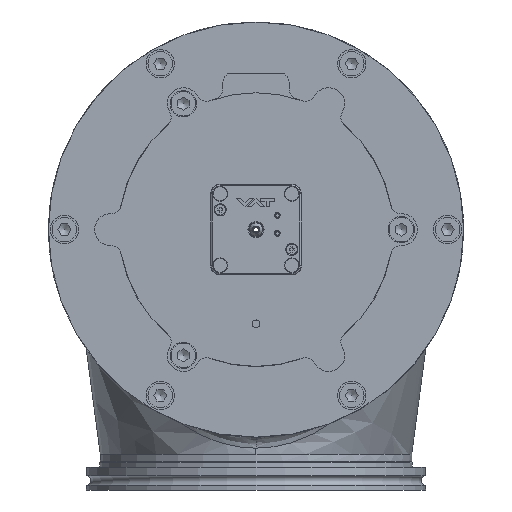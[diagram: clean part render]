
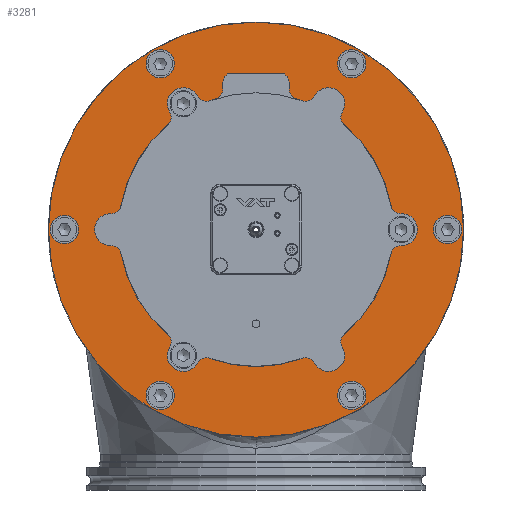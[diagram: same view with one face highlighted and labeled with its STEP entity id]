
A CAD part, left-side view. The second image highlights one B-rep face of the part: STEP entity #3281.
In plain terms, the highlighted planar face has unit normal (-1, 0, 0).
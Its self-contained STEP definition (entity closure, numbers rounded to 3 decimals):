
#3281=ADVANCED_FACE('BCT_REF_36137',(#4828,#4829,#4830,#4831,#4832,#4833,
#4834,#4835,#4836,#4837,#4838),#3699,.T.);
#3699=PLANE('',#13419);
#4253=CIRCLE('',#13408,3.4);
#4254=CIRCLE('',#13409,3.4);
#4255=CIRCLE('',#13410,3.4);
#4256=CIRCLE('',#13411,7.5);
#4257=CIRCLE('',#13412,7.5);
#4258=CIRCLE('',#13413,7.5);
#4259=CIRCLE('',#13414,7.5);
#4260=CIRCLE('',#13415,7.5);
#4261=CIRCLE('',#13416,7.5);
#4262=CIRCLE('',#13417,72.645);
#4263=CIRCLE('',#13418,110.);
#4828=FACE_BOUND('',#5557,.T.);
#4829=FACE_BOUND('',#5558,.T.);
#4830=FACE_BOUND('',#5559,.T.);
#4831=FACE_BOUND('',#5560,.T.);
#4832=FACE_BOUND('',#5561,.T.);
#4833=FACE_BOUND('',#5562,.T.);
#4834=FACE_BOUND('',#5563,.T.);
#4835=FACE_BOUND('',#5564,.T.);
#4836=FACE_BOUND('',#5565,.T.);
#4837=FACE_BOUND('',#5566,.T.);
#4838=FACE_BOUND('',#5567,.T.);
#5557=EDGE_LOOP('',(#7442));
#5558=EDGE_LOOP('',(#7443));
#5559=EDGE_LOOP('',(#7444));
#5560=EDGE_LOOP('',(#7445));
#5561=EDGE_LOOP('',(#7446));
#5562=EDGE_LOOP('',(#7447));
#5563=EDGE_LOOP('',(#7448));
#5564=EDGE_LOOP('',(#7449));
#5565=EDGE_LOOP('',(#7450));
#5566=EDGE_LOOP('',(#7451));
#5567=EDGE_LOOP('',(#7452));
#7442=ORIENTED_EDGE('',*,*,#10671,.T.);
#7443=ORIENTED_EDGE('',*,*,#10672,.T.);
#7444=ORIENTED_EDGE('',*,*,#10673,.T.);
#7445=ORIENTED_EDGE('',*,*,#10674,.T.);
#7446=ORIENTED_EDGE('',*,*,#10675,.T.);
#7447=ORIENTED_EDGE('',*,*,#10676,.T.);
#7448=ORIENTED_EDGE('',*,*,#10677,.T.);
#7449=ORIENTED_EDGE('',*,*,#10678,.T.);
#7450=ORIENTED_EDGE('',*,*,#10679,.T.);
#7451=ORIENTED_EDGE('',*,*,#10680,.T.);
#7452=ORIENTED_EDGE('',*,*,#10681,.T.);
#9428=VERTEX_POINT('',#21634);
#9429=VERTEX_POINT('',#21636);
#9430=VERTEX_POINT('',#21638);
#9431=VERTEX_POINT('',#21640);
#9432=VERTEX_POINT('',#21642);
#9433=VERTEX_POINT('',#21644);
#9434=VERTEX_POINT('',#21646);
#9435=VERTEX_POINT('',#21648);
#9436=VERTEX_POINT('',#21650);
#9437=VERTEX_POINT('',#21652);
#9438=VERTEX_POINT('',#21654);
#10671=EDGE_CURVE('BCT_REF_43192',#9428,#9428,#4253,.T.);
#10672=EDGE_CURVE('',#9429,#9429,#4254,.T.);
#10673=EDGE_CURVE('',#9430,#9430,#4255,.T.);
#10674=EDGE_CURVE('BCT_REF_95660',#9431,#9431,#4256,.T.);
#10675=EDGE_CURVE('',#9432,#9432,#4257,.T.);
#10676=EDGE_CURVE('BCT_REF_43177',#9433,#9433,#4258,.T.);
#10677=EDGE_CURVE('',#9434,#9434,#4259,.T.);
#10678=EDGE_CURVE('',#9435,#9435,#4260,.T.);
#10679=EDGE_CURVE('',#9436,#9436,#4261,.T.);
#10680=EDGE_CURVE('',#9437,#9437,#4262,.T.);
#10681=EDGE_CURVE('',#9438,#9438,#4263,.T.);
#13408=AXIS2_PLACEMENT_3D('',#21633,#15553,#15554);
#13409=AXIS2_PLACEMENT_3D('',#21635,#15555,#15556);
#13410=AXIS2_PLACEMENT_3D('',#21637,#15557,#15558);
#13411=AXIS2_PLACEMENT_3D('',#21639,#15559,#15560);
#13412=AXIS2_PLACEMENT_3D('',#21641,#15561,#15562);
#13413=AXIS2_PLACEMENT_3D('',#21643,#15563,#15564);
#13414=AXIS2_PLACEMENT_3D('',#21645,#15565,#15566);
#13415=AXIS2_PLACEMENT_3D('',#21647,#15567,#15568);
#13416=AXIS2_PLACEMENT_3D('',#21649,#15569,#15570);
#13417=AXIS2_PLACEMENT_3D('',#21651,#15571,#15572);
#13418=AXIS2_PLACEMENT_3D('',#21653,#15573,#15574);
#13419=AXIS2_PLACEMENT_3D('',#21655,#15575,#15576);
#15553=DIRECTION('',(1.,0.,0.));
#15554=DIRECTION('',(0.,-0.866,0.5));
#15555=DIRECTION('',(1.,0.,0.));
#15556=DIRECTION('',(0.,0.866,0.5));
#15557=DIRECTION('',(1.,0.,0.));
#15558=DIRECTION('',(0.,0.,-1.));
#15559=DIRECTION('',(1.,0.,0.));
#15560=DIRECTION('',(0.,-0.866,-0.5));
#15561=DIRECTION('',(1.,0.,0.));
#15562=DIRECTION('',(0.,-0.866,0.5));
#15563=DIRECTION('',(1.,0.,0.));
#15564=DIRECTION('',(0.,0.,1.));
#15565=DIRECTION('',(1.,0.,0.));
#15566=DIRECTION('',(0.,0.866,0.5));
#15567=DIRECTION('',(1.,0.,0.));
#15568=DIRECTION('',(0.,0.866,-0.5));
#15569=DIRECTION('',(1.,0.,0.));
#15570=DIRECTION('',(0.,0.,-1.));
#15571=DIRECTION('',(1.,0.,0.));
#15572=DIRECTION('',(0.,0.,1.));
#15573=DIRECTION('',(-1.,0.,0.));
#15574=DIRECTION('',(0.,0.,1.));
#15575=DIRECTION('',(-1.,0.,0.));
#15576=DIRECTION('',(0.,0.,1.));
#21633=CARTESIAN_POINT('',(0.,-66.684,-38.5));
#21634=CARTESIAN_POINT('',(0.,-69.628,-36.8));
#21635=CARTESIAN_POINT('',(0.,0.,77.));
#21636=CARTESIAN_POINT('',(0.,2.944,78.7));
#21637=CARTESIAN_POINT('',(0.,66.684,-38.5));
#21638=CARTESIAN_POINT('',(0.,66.684,-41.9));
#21639=CARTESIAN_POINT('',(0.,87.902,-50.75));
#21640=CARTESIAN_POINT('',(0.,81.406,-54.5));
#21641=CARTESIAN_POINT('',(0.,0.,-101.5));
#21642=CARTESIAN_POINT('',(0.,-6.495,-97.75));
#21643=CARTESIAN_POINT('',(0.,-87.902,-50.75));
#21644=CARTESIAN_POINT('',(0.,-87.902,-43.25));
#21645=CARTESIAN_POINT('',(0.,-87.902,50.75));
#21646=CARTESIAN_POINT('',(0.,-81.406,54.5));
#21647=CARTESIAN_POINT('',(0.,0.,101.5));
#21648=CARTESIAN_POINT('',(0.,6.495,97.75));
#21649=CARTESIAN_POINT('',(0.,87.902,50.75));
#21650=CARTESIAN_POINT('',(0.,87.902,43.25));
#21651=CARTESIAN_POINT('',(0.,0.,0.));
#21652=CARTESIAN_POINT('',(0.,0.,72.645));
#21653=CARTESIAN_POINT('',(0.,0.,0.));
#21654=CARTESIAN_POINT('',(0.,0.,110.));
#21655=CARTESIAN_POINT('',(0.,72.145,0.));
